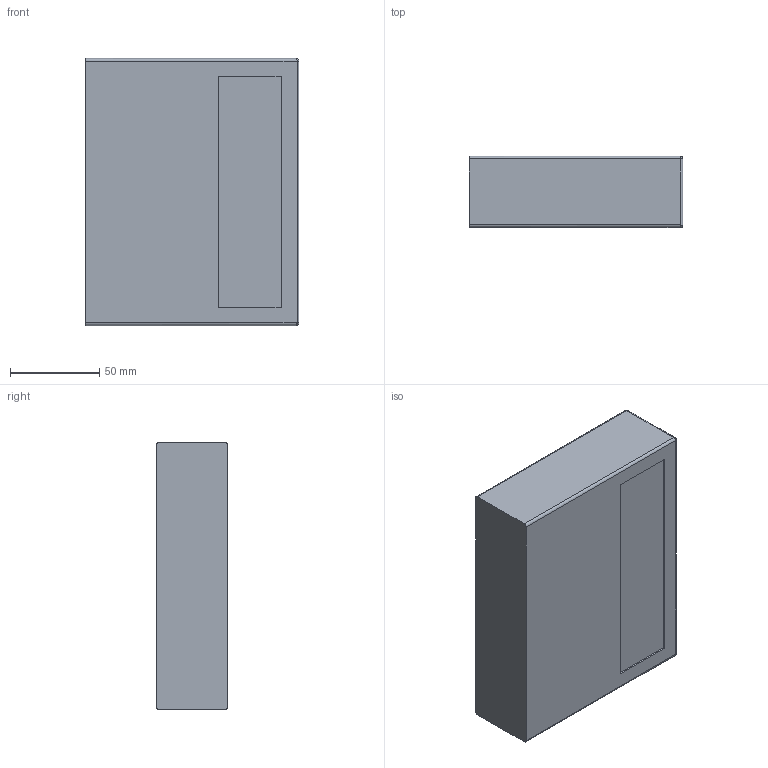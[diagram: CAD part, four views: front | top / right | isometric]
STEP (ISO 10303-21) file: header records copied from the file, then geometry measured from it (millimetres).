
FILE_DESCRIPTION (( 'STEP AP203' ), '1' );
FILE_NAME ('ALIAS 15.STEP', '2012-11-23T13:03:26', ( '' ), ( '' ), 'SwSTEP 2.0', 'SolidWorks 2010', '' );
FILE_SCHEMA (( 'CONFIG_CONTROL_DESIGN' ));
Length unit declared in the file: millimetre
Products named in the file (1): ALIAS 15
Bounding box: 120 x 40 x 150 mm (x, y, z)
Volume: 59178.6 mm3; surface area: 113519.4 mm2
Topology: 1 solids, 2 shells, 50 faces, 114 edges, 68 vertices
Faces by surface type: plane 32, cylinder 14, bspline 4
Entity records: 1561 total; most frequent: CARTESIAN_POINT 429, ORIENTED_EDGE 220, DIRECTION 204, EDGE_CURVE 110, VECTOR 86, LINE 86, VERTEX_POINT 68, AXIS2_PLACEMENT_3D 59
